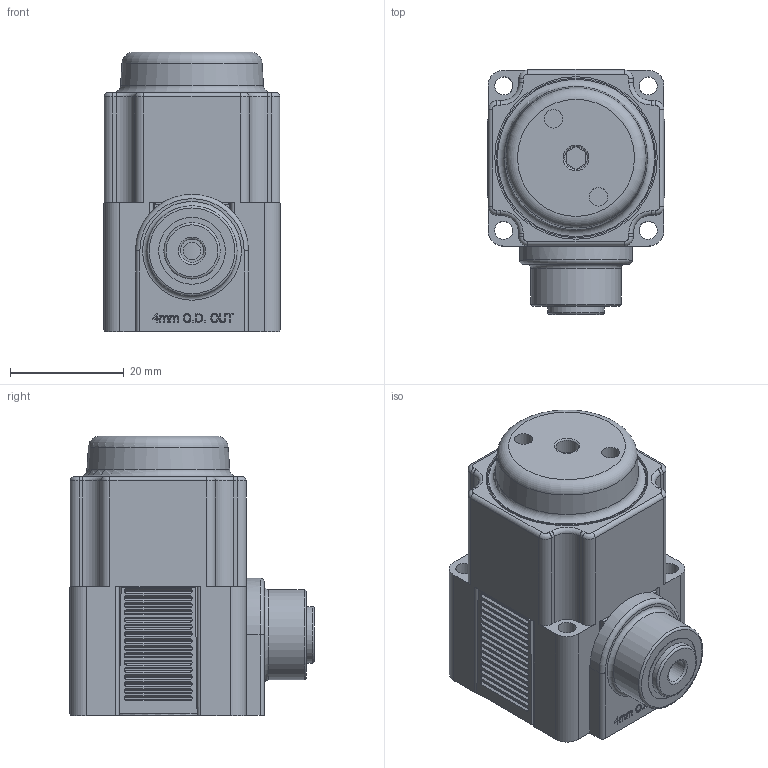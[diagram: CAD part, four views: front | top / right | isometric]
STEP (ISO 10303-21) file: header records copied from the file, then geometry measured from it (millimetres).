
FILE_DESCRIPTION(/* description */ (''),/* implementation_level */ '2;1');
FILE_NAME(/* name */ 'K:\Normteile INVENTOR\Air-Logic\Regulators\PR7000\PR 7___ 7 Push-In Fitting for 4mm O.D. Tube Out.igs.ipt.stp',/* time_stamp */ '2020-05-27T10:54:15+02:00',/* author */ ('Paul'),/* organization */ (''),/* preprocessor_version */ 'ST-DEVELOPER v18',/* originating_system */ 'Autodesk Inventor 2020',/* authorisation */ '');
FILE_SCHEMA (('AUTOMOTIVE_DESIGN { 1 0 10303 214 3 1 1 }'));
Length unit declared in the file: inch
Products named in the file (1): PR 7___ 7 Push-In Fitting for 4mm O.D. Tube Out.igs
Bounding box: 31.19 x 43.08 x 49.15 mm (x, y, z)
Volume: 41980.9 mm3; surface area: 13204.7 mm2
Topology: 1 solids, 1 shells, 735 faces, 1912 edges, 1252 vertices
Faces by surface type: plane 372, cylinder 253, bspline 84, torus 24, cone 2
Full cylindrical faces by diameter (mm): 3.073 x1, 3.175 x4, 3.226 x2, 4.013 x1, 4.089 x1, 6.045 x1, 9.169 x1, 9.398 x1, 9.906 x1, 11.735 x1, 12.903 x1, 15.85 x1, 26.264 x1, 28.047 x1, 28.575 x1
Entity records: 25317 total; most frequent: CARTESIAN_POINT 6421, ORIENTED_EDGE 3824, DIRECTION 3748, EDGE_CURVE 1912, AXIS2_PLACEMENT_3D 1412, VERTEX_POINT 1252, LINE 924, VECTOR 924
